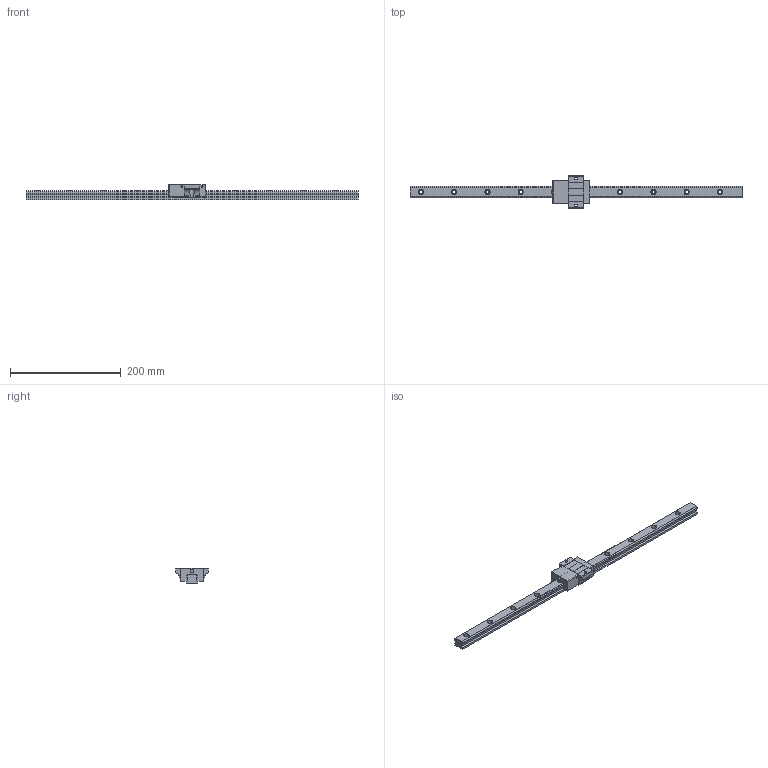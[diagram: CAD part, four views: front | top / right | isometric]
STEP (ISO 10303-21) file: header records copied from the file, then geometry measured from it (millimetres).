
FILE_DESCRIPTION (( 'STEP AP203' ), '1' );
FILE_NAME ('TRS20FS-BN.STEP', '2024-07-11T01:48:50', ( '' ), ( '' ), 'SwSTEP 2.0', 'SolidWorks 2022', '' );
FILE_SCHEMA (( 'CONFIG_CONTROL_DESIGN' ));
Length unit declared in the file: millimetre
Products named in the file (1): TRS20FS-BN
Bounding box: 600 x 59 x 28 mm (x, y, z)
Volume: 220748.9 mm3; surface area: 63393.8 mm2
Topology: 2 solids, 2 shells, 224 faces, 596 edges, 388 vertices
Faces by surface type: cylinder 116, plane 104, sphere 4
Entity records: 7263 total; most frequent: CARTESIAN_POINT 1421, DIRECTION 1238, ORIENTED_EDGE 1184, EDGE_CURVE 592, AXIS2_PLACEMENT_3D 441, VERTEX_POINT 388, LINE 356, VECTOR 356
